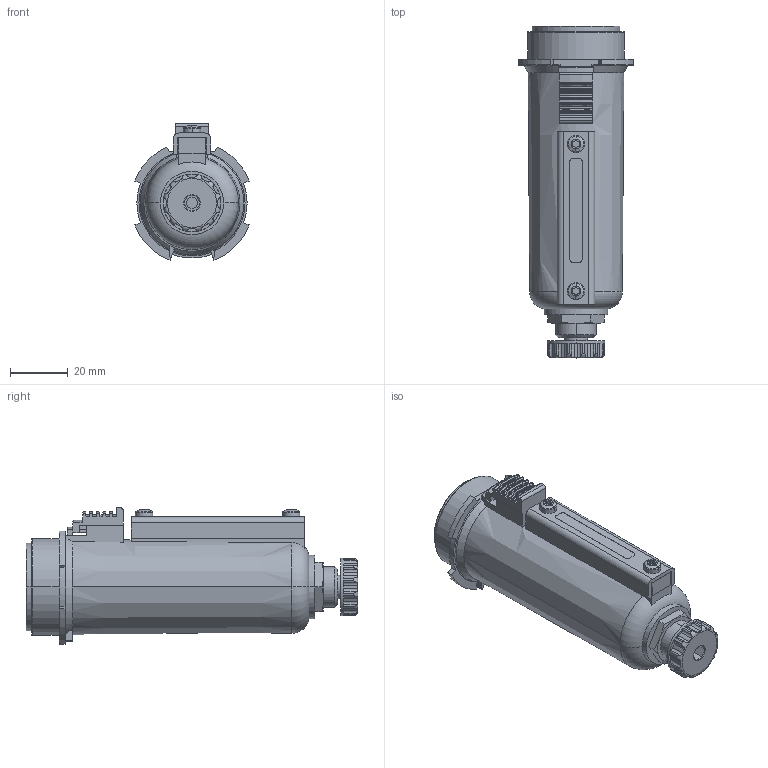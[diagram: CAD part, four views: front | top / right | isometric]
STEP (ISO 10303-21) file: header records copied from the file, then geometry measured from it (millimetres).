
FILE_DESCRIPTION((''),'2;1');
FILE_NAME('1827009340','2018-01-18T',('pug1hc'),(''),'CREO PARAMETRIC BY PTC INC, 2016260','CREO PARAMETRIC BY PTC INC, 2016260','');
FILE_SCHEMA(('CONFIG_CONTROL_DESIGN'));
Length unit declared in the file: millimetre
Products named in the file (1): 1827009340
Bounding box: 39.68 x 115 x 47.29 mm (x, y, z)
Volume: 94232 mm3; surface area: 17786.6 mm2
Topology: 1 solids, 1 shells, 337 faces, 986 edges, 664 vertices
Faces by surface type: plane 142, cylinder 134, torus 40, cone 17, bspline 4
Entity records: 12776 total; most frequent: CARTESIAN_POINT 3634, ORIENTED_EDGE 1972, DIRECTION 1914, EDGE_CURVE 986, AXIS2_PLACEMENT_3D 731, VERTEX_POINT 664, VECTOR 452, LINE 452
